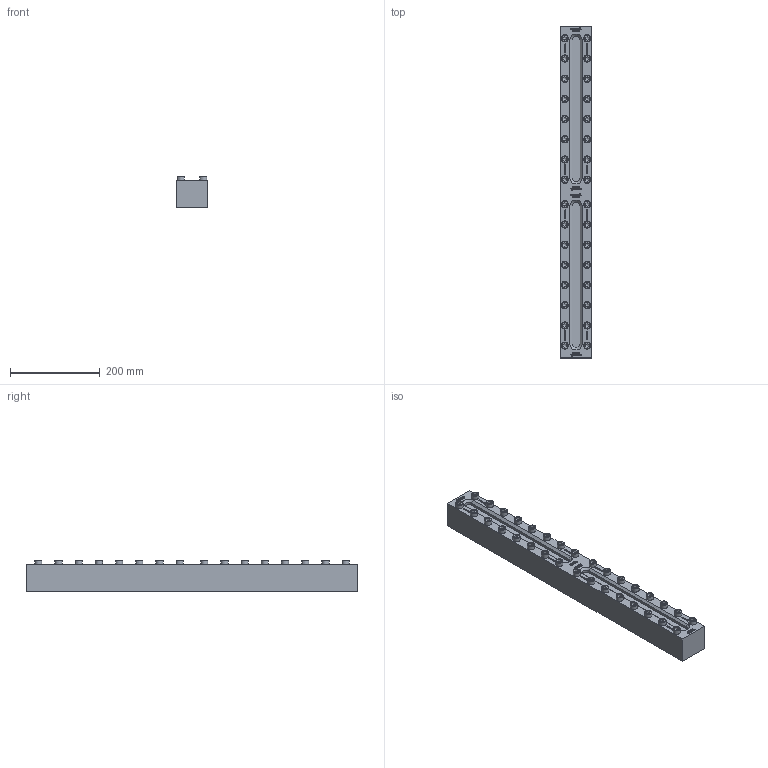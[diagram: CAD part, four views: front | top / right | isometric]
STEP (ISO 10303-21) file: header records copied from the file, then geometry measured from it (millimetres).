
FILE_DESCRIPTION(/* description */ (''),/* implementation_level */ '2;1');
FILE_NAME(/* name */ 'W:\Konstruktion_ACI\330\_Zeichnungen\STEP\ACI-330-740-40.stp',/* time_stamp */ '2022-03-01T17:25:30+01:00',/* author */ ('koslowksi'),/* organization */ (''),/* preprocessor_version */ 'ST-DEVELOPER v16.1',/* originating_system */ 'Autodesk Inventor 2016',/* authorisation */ '');
FILE_SCHEMA (('AUTOMOTIVE_DESIGN { 1 0 10303 214 3 1 1 }'));
Products named in the file (1): ACI-330-740-40.stp
Bounding box: 70 x 740 x 70.9 mm (x, y, z)
Volume: 2838164.9 mm3; surface area: 260324.1 mm2
Topology: 1 solids, 1 shells, 2546 faces, 6872 edges, 4568 vertices
Faces by surface type: plane 1834, bspline 604, cylinder 40, cone 36, torus 32
Full cylindrical faces by diameter (mm): 16 x32
Entity records: 83168 total; most frequent: CARTESIAN_POINT 21999, ORIENTED_EDGE 13424, DIRECTION 9314, EDGE_CURVE 6712, LINE 5196, VECTOR 5196, VERTEX_POINT 4504, EDGE_LOOP 2882
